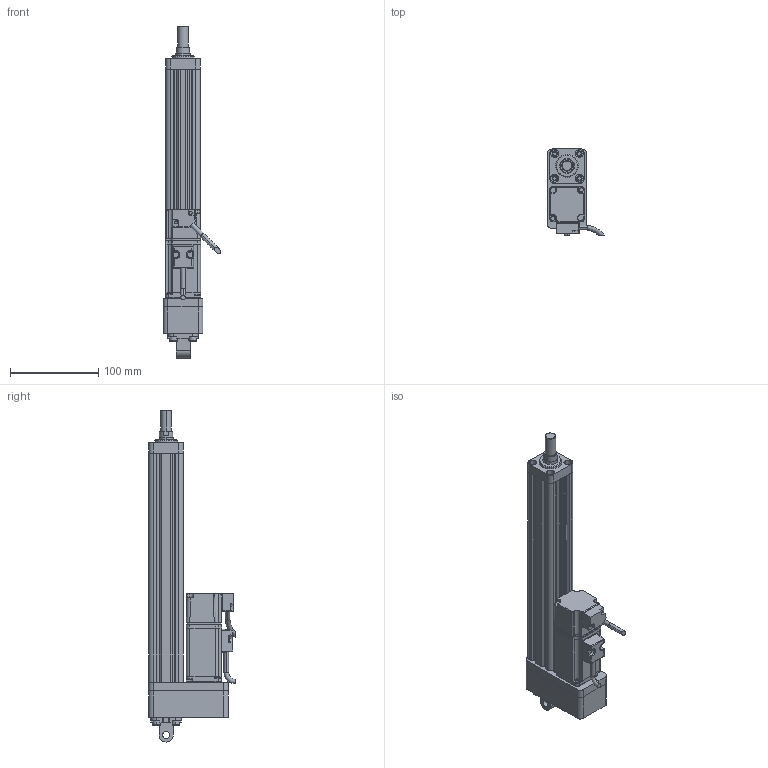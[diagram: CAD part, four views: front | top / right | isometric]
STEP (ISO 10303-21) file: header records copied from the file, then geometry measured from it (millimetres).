
FILE_DESCRIPTION (( 'STEP AP214' ), '1' );
FILE_NAME ('039-S200-D02-B-M5-C1-2.STEP', '2021-03-02T05:06:56', ( '' ), ( '' ), 'SwSTEP 2.0', 'SolidWorks 2018', '' );
FILE_SCHEMA (( 'AUTOMOTIVE_DESIGN' ));
Length unit declared in the file: millimetre
Products named in the file (8): F-ACE20CA_ACE_; CMC039-GT; CMC039-LJB; CMC039-FL; 039-S200-D02-B-M5-C1-2; CMC039-HXT; ECMA-CX0401ES-40框號系列機種-100W低慣量系列; CMC039-DT
Assembly tree (7 placements, depth 2):
  039-S200-D02-B-M5-C1-2
    CMC039-GT
    CMC039-LJB
    CMC039-FL
    CMC039-DT
    ECMA-CX0401ES-40框號系列機種-100W低慣量系列
    CMC039-HXT
    F-ACE20CA_ACE_
Bounding box: 65.34 x 97.89 x 377 mm (x, y, z)
Volume: 512499.4 mm3; surface area: 163192.6 mm2
Topology: 7 solids, 15 shells, 765 faces, 1996 edges, 1251 vertices
Faces by surface type: cylinder 321, plane 303, bspline 92, cone 49
Entity records: 29810 total; most frequent: CARTESIAN_POINT 11648, ORIENTED_EDGE 3926, DIRECTION 3331, EDGE_CURVE 1963, VERTEX_POINT 1251, AXIS2_PLACEMENT_3D 1181, VECTOR 969, LINE 969
